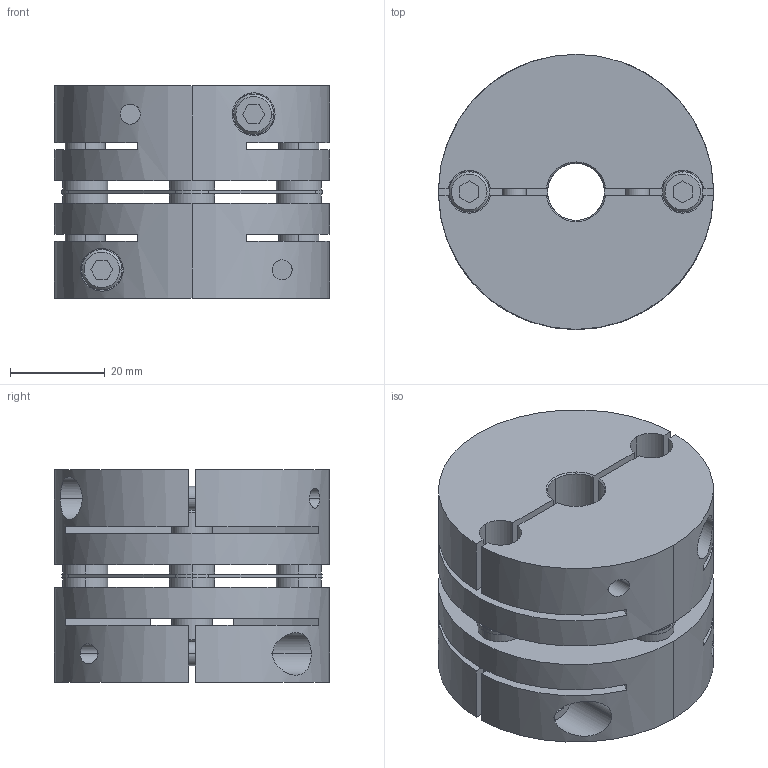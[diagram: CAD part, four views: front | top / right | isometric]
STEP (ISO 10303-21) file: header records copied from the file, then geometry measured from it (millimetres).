
FILE_DESCRIPTION((''),'2;1');
FILE_NAME('LAS-58C-12×20.stp','2011-08-09T15:23:50',(''),(''),'AutoCAD STEP 2000i','AutoCAD 2000i',', , ');
FILE_SCHEMA(('CONFIG_CONTROL_DESIGN'));
Length unit declared in the file: millimetre
Products named in the file (6): LAS-58C-12×19; 忣兜1; LA-5802-D19; LA-5802-D12-1; LA-5802-D12; LAS58-ITA
Assembly tree (5 placements, depth 2):
  LAS-58C-12×19
    忣兜1
    LA-5802-D19
    LA-5802-D12-1
    LA-5802-D12
    LAS58-ITA
Bounding box: 58 x 58 x 44.8 mm (x, y, z)
Volume: 87808.5 mm3; surface area: 33345.5 mm2
Topology: 1 solids, 1 shells, 238 faces, 618 edges, 404 vertices
Faces by surface type: plane 114, cylinder 96, cone 28
Entity records: 8213 total; most frequent: CARTESIAN_POINT 1988, DIRECTION 1316, ORIENTED_EDGE 1240, EDGE_CURVE 620, AXIS2_PLACEMENT_3D 484, VERTEX_POINT 404, VECTOR 348, LINE 348
